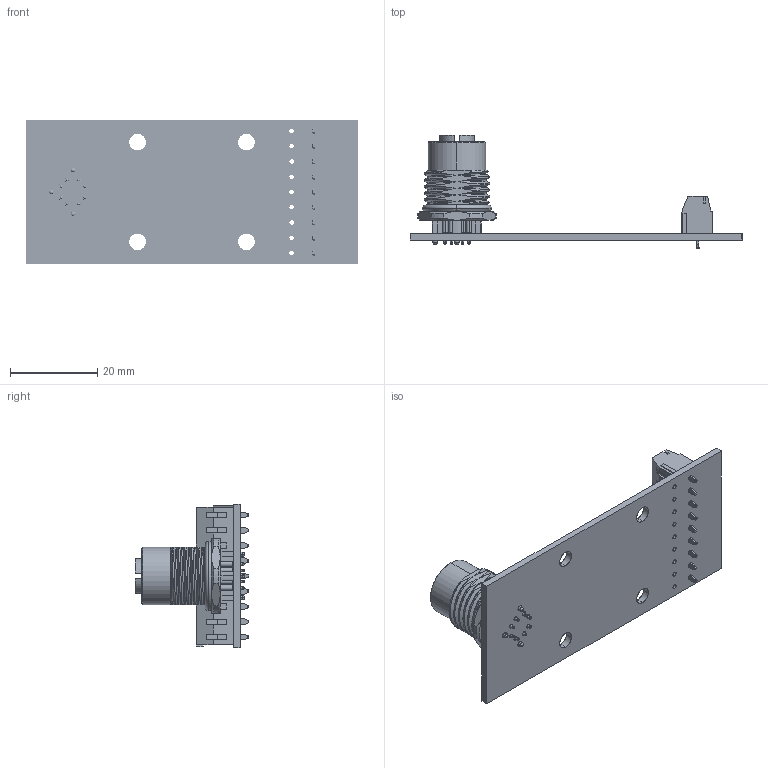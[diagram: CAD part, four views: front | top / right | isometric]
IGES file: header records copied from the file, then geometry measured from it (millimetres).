
Start section: SolidWorks IGES file using analytic representation for surfaces
Global section: file name: W:\end-user\products\brk\brkm12\brkm12x-8fs\3dmodel\rev_a\render\brkm12x-8fs-n_rev_a.igs; native system: SolidWorks 2018; preprocessor: SolidWorks 2018; author: leviroy; date: 240214.094520; units: inch
Bounding box: 76.2 x 26 x 33.02 mm (x, y, z)
Surface area: 13010.5 mm2 (no closed solid volume)
Topology: 0 solids, 0 shells, 2451 faces, 23403 edges, 23379 vertices
Faces by surface type: bspline 1902, revolution 549
